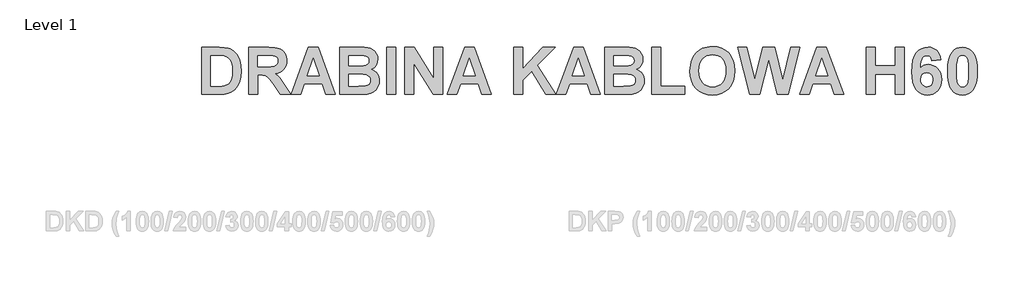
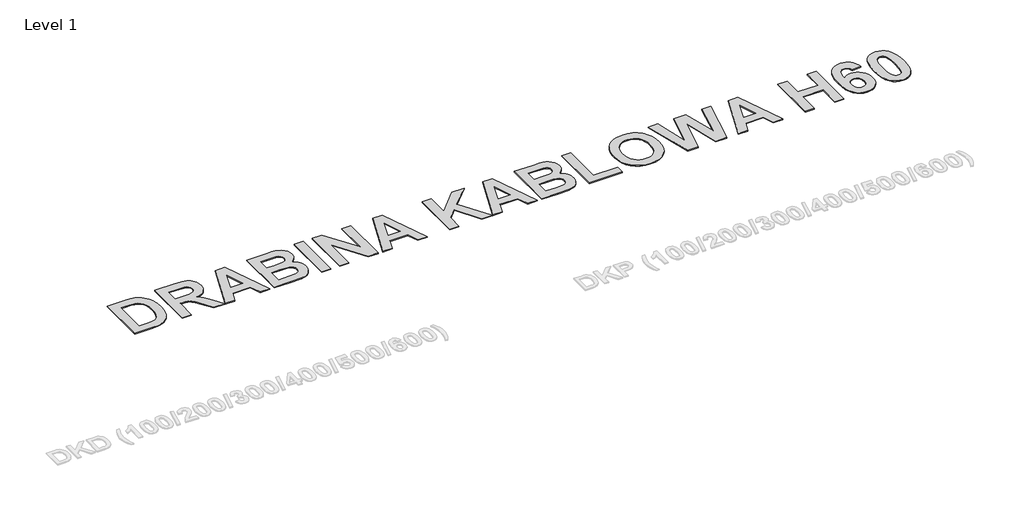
# One storey, part 41 of 42: 1 proxy.
"""IFC4 building model written with IfcOpenShell, lengths in millimetres."""

from ifc_helpers import new_model, si_unit, origin, origin_with_axes, place, context, project, spatial, polyline, outline, extrude, element, save

model = new_model("IFC4")

# Units and contexts
model_context = context("Model", 3, world=origin())
ifc_project = project(units=[si_unit("LENGTHUNIT", "METRE", prefix="MILLI")], contexts=[model_context])

# Site, building, storey
site = spatial("IfcSite", under=ifc_project)
building = spatial("IfcBuilding", under=site)
storey = spatial("IfcBuildingStorey", under=building, Name="Level 1", Elevation=0.0)

# Proxy
placement = place(None, origin())
element("IfcBuildingElementProxy", 1, Name="600mm Arial", ObjectType="600mm Arial", at=placement, inside=storey, context=model_context, shape_type="SweptSolid", body=[
    extrude(outline(polyline([(33126.7521017, 23578.3068806), (33353.4258047, 23578.3068806), (33420.9876251, 23575.3842625), (33470.3305276, 23566.6164083), (33496.3873758, 23557.1131551), (33520.5084639, 23544.5449484), (33542.693792, 23528.9117885), (33562.9433601, 23510.2136751), (33581.0721322, 23488.8444027), (33596.8950726, 23465.1977656), (33621.623458, 23411.0723971), (33630.4245238, 23380.0195801), (33636.7109993, 23345.5412269), (33641.7401798, 23266.3079123), (33637.033626, 23196.0132542), (33622.9139647, 23136.0426496), (33610.1417441, 23104.2354555), (33594.9023785, 23075.6165721), (33577.1958677, 23050.1859992), (33557.0222118, 23027.943737), (33519.142045, 23000.0839751), (33469.8750547, 22979.0563074), (33421.9365271, 22969.3775073), (33360.1060746, 22966.1512406), (33126.7521017, 22966.1512406), (33126.7521017, 23578.3068806)]), holes=[polyline([(33243.353176, 23471.4225625), (33243.353176, 23073.0355587), (33342.6462783, 23073.0355587), (33390.622762, 23074.4778897), (33423.1131655, 23078.8048827), (33452.699929, 23088.6924412), (33476.783061, 23103.7799826), (33496.1596393, 23127.1419491), (33511.6267414, 23161.8527833), (33521.7610145, 23209.6015305), (33525.1391055, 23272.0772363), (33521.7610145, 23333.6799523), (33511.6267414, 23379.1133787), (33495.4384738, 23412.3629038), (33473.898399, 23437.4139158), (33446.3992199, 23454.9496243), (33412.3336391, 23465.6532385), (33371.0753814, 23469.9802315), (33303.1719563, 23471.4225625), (33243.353176, 23471.4225625)])]), origin_with_axes(), (0.0, 0.0, 1.0), 10.0),
    extrude(outline(polyline([(33738.9077417, 22966.1512406), (33738.9077417, 23578.3068806), (33996.4017807, 23578.3068806), (34080.284715, 23574.169668), (34112.2627115, 23568.9981522), (34137.5983941, 23561.7580302), (34158.5121936, 23551.8704717), (34177.2245405, 23538.7566464), (34193.7354348, 23522.4165545), (34208.0448765, 23502.8501958), (34219.6025025, 23480.9020932), (34227.8579497, 23457.4167694), (34232.811218, 23432.3942244), (34234.4623074, 23405.8344582), (34232.0758189, 23372.7272684), (34224.9163535, 23342.6375869), (34212.9839113, 23315.5654136), (34196.278492, 23291.5107487), (34174.819074, 23271.0524222), (34148.624635, 23254.7692643), (34117.6951753, 23242.6612752), (34082.0306947, 23234.7284547), (34115.8495609, 23210.360652), (34143.2158938, 23183.7154847), (34171.5311286, 23145.1141525), (34208.1967008, 23084.8778553), (34283.0460883, 22966.1512406), (34146.8596774, 22966.1512406), (34058.1942771, 23105.9814352), (34015.3608421, 23159.6703087), (33988.5828285, 23188.9534236), (33969.2631843, 23203.3577555), (33948.8048578, 23212.4102803), (33921.6472834, 23217.1927462), (33882.2298955, 23218.7869016), (33855.508816, 23218.7869016), (33855.508816, 22966.1512406), (33738.9077417, 22966.1512406)]), holes=[polyline([(33855.508816, 23325.6712196), (33951.6136077, 23325.6712196), (34027.4688313, 23327.4361773), (34068.2905941, 23332.7310503), (34089.0525692, 23342.3339383), (34104.7284298, 23357.0229408), (34114.5780323, 23376.3995191), (34117.8612331, 23400.0651342), (34113.5342401, 23426.2738067), (34100.5532611, 23446.9029355), (34079.6774178, 23461.4590918), (34051.6658316, 23469.4488464), (33956.9274587, 23471.4225625), (33855.508816, 23471.4225625), (33855.508816, 23325.6712196)])]), origin_with_axes(), (0.0, 0.0, 1.0), 10.0),
    extrude(outline(polyline([(34866.0514597, 22966.1512406), (34743.5292372, 22966.1512406), (34695.5527535, 23102.1858273), (34464.324321, 23102.1858273), (34416.9551346, 22966.1512406), (34292.7628445, 22966.1512406), (34516.2482369, 23578.3068806), (34640.440527, 23578.3068806), (34866.0514597, 22966.1512406)]), holes=[polyline([(34658.2039719, 23209.0701454), (34579.4071521, 23432.5555377), (34501.6731026, 23209.0701454), (34658.2039719, 23209.0701454)])]), origin_with_axes(), (0.0, 0.0, 1.0), 10.0),
    extrude(outline(polyline([(34924.3519969, 23578.3068806), (35175.621239, 23578.3068806), (35240.6969362, 23576.7886374), (35286.8325501, 23572.233908), (35321.5623622, 23562.8397784), (35352.4206543, 23546.8033351), (35378.9329754, 23524.2574243), (35400.6248745, 23495.3348922), (35415.0861406, 23461.2693114), (35419.9065626, 23423.2942545), (35414.1562166, 23381.9221285), (35396.9051788, 23344.0419618), (35369.7855604, 23312.4245481), (35334.429473, 23289.8406812), (35358.2469125, 23280.2947274), (35379.1417339, 23267.9020676), (35397.1139372, 23252.6627019), (35412.1635225, 23234.5766304), (35424.0532642, 23214.203705), (35432.5459368, 23192.1037781), (35437.6415404, 23168.2768496), (35439.340075, 23142.7229195), (35434.4627188, 23101.7113763), (35419.8306504, 23061.8764715), (35396.7533545, 23026.5773182), (35366.5403157, 22999.1730292), (35328.8309513, 22980.2139678), (35283.2646786, 22970.2504971), (35133.5659036, 22966.1512406), (34924.3519969, 22966.1512406), (34924.3519969, 23578.3068806)]), holes=[polyline([(35040.9530712, 23228.5036577), (35040.9530712, 23073.0355587), (35164.2344153, 23073.0355587), (35255.6326532, 23076.6793423), (35282.6194253, 23084.8209212), (35304.0646099, 23099.8325504), (35318.070403, 23121.4105812), (35322.7390007, 23149.2513651), (35319.1331732, 23173.3914312), (35308.3156907, 23193.5840652), (35290.7040701, 23209.3358379), (35266.7158283, 23220.1533204), (35223.5977227, 23226.4160734), (35148.5965108, 23228.5036577), (35040.9530712, 23228.5036577)]), polyline([(35040.9530712, 23471.4225625), (35040.9530712, 23335.3879758), (35129.92212, 23335.3879758), (35228.6079251, 23337.3616919), (35259.6749756, 23344.4594787), (35283.3405908, 23358.4652718), (35298.3142639, 23378.6958618), (35303.3054883, 23404.4680394), (35298.9974733, 23429.1205126), (35286.0734285, 23448.7248273), (35264.685178, 23462.4459498), (35234.9845463, 23469.4488464), (35118.9907693, 23471.4225625), (35040.9530712, 23471.4225625)])]), origin_with_axes(), (0.0, 0.0, 1.0), 10.0),
    extrude(outline(polyline([(35536.5076369, 22966.1512406), (35536.5076369, 23578.3068806), (35653.1087111, 23578.3068806), (35653.1087111, 22966.1512406), (35536.5076369, 22966.1512406)])), origin_with_axes(), (0.0, 0.0, 1.0), 10.0),
    extrude(outline(polyline([(35769.7097854, 22966.1512406), (35769.7097854, 23578.3068806), (35891.9283594, 23578.3068806), (36148.6632768, 23166.2556884), (36148.6632768, 23578.3068806), (36265.2643511, 23578.3068806), (36265.2643511, 22966.1512406), (36139.2501693, 22966.1512406), (35886.3108597, 23372.1294602), (35886.3108597, 22966.1512406), (35769.7097854, 22966.1512406)])), origin_with_axes(), (0.0, 0.0, 1.0), 10.0),
    extrude(outline(polyline([(36896.8535035, 22966.1512406), (36774.3312809, 22966.1512406), (36726.3547972, 23102.1858273), (36495.1263647, 23102.1858273), (36447.7571783, 22966.1512406), (36323.5648882, 22966.1512406), (36547.0502806, 23578.3068806), (36671.2425707, 23578.3068806), (36896.8535035, 22966.1512406)]), holes=[polyline([(36689.0060156, 23209.0701454), (36610.2091959, 23432.5555377), (36532.4751463, 23209.0701454), (36689.0060156, 23209.0701454)])]), origin_with_axes(), (0.0, 0.0, 1.0), 10.0),
    extrude(outline(polyline([(37188.3561892, 22966.1512406), (37188.3561892, 23578.3068806), (37304.9572634, 23578.3068806), (37304.9572634, 23299.2537888), (37567.6133292, 23578.3068806), (37727.6361577, 23578.3068806), (37495.9522523, 23344.4974348), (37737.3529139, 22966.1512406), (37601.0146786, 22966.1512406), (37420.1919189, 23267.8261555), (37304.9572634, 23151.3769055), (37304.9572634, 22966.1512406), (37188.3561892, 22966.1512406)])), origin_with_axes(), (0.0, 0.0, 1.0), 10.0),
    extrude(outline(polyline([(38315.4999072, 22966.1512406), (38192.9776846, 22966.1512406), (38145.0012009, 23102.1858273), (37913.7727685, 23102.1858273), (37866.4035821, 22966.1512406), (37742.211292, 22966.1512406), (37965.6966844, 23578.3068806), (38089.8889744, 23578.3068806), (38315.4999072, 22966.1512406)]), holes=[polyline([(38107.6524193, 23209.0701454), (38028.8555996, 23432.5555377), (37951.1215501, 23209.0701454), (38107.6524193, 23209.0701454)])]), origin_with_axes(), (0.0, 0.0, 1.0), 10.0),
    extrude(outline(polyline([(38373.8004444, 23578.3068806), (38625.0696865, 23578.3068806), (38690.1453837, 23576.7886374), (38736.2809975, 23572.233908), (38771.0108097, 23562.8397784), (38801.8691018, 23546.8033351), (38828.3814229, 23524.2574243), (38850.073322, 23495.3348922), (38864.534588, 23461.2693114), (38869.35501, 23423.2942545), (38863.6046641, 23381.9221285), (38846.3536263, 23344.0419618), (38819.2340079, 23312.4245481), (38783.8779204, 23289.8406812), (38807.6953599, 23280.2947274), (38828.5901813, 23267.9020676), (38846.5623847, 23252.6627019), (38861.61197, 23234.5766304), (38873.5017117, 23214.203705), (38881.9943843, 23192.1037781), (38887.0899879, 23168.2768496), (38888.7885224, 23142.7229195), (38883.9111663, 23101.7113763), (38869.2790979, 23061.8764715), (38846.2018019, 23026.5773182), (38815.9887632, 22999.1730292), (38778.2793988, 22980.2139678), (38732.7131261, 22970.2504971), (38583.0143511, 22966.1512406), (38373.8004444, 22966.1512406), (38373.8004444, 23578.3068806)]), holes=[polyline([(38490.4015186, 23471.4225625), (38490.4015186, 23335.3879758), (38579.3705675, 23335.3879758), (38678.0563726, 23337.3616919), (38709.1234231, 23344.4594787), (38732.7890383, 23358.4652718), (38747.7627114, 23378.6958618), (38752.7539358, 23404.4680394), (38748.4459208, 23429.1205126), (38735.521876, 23448.7248273), (38714.1336255, 23462.4459498), (38684.4329938, 23469.4488464), (38568.4392168, 23471.4225625), (38490.4015186, 23471.4225625)]), polyline([(38490.4015186, 23228.5036577), (38490.4015186, 23073.0355587), (38613.6828628, 23073.0355587), (38705.0811007, 23076.6793423), (38732.0678728, 23084.8209212), (38753.5130573, 23099.8325504), (38767.5188504, 23121.4105812), (38772.1874481, 23149.2513651), (38768.5816207, 23173.3914312), (38757.7641382, 23193.5840652), (38740.1525176, 23209.3358379), (38716.1642757, 23220.1533204), (38673.0461701, 23226.4160734), (38598.0449583, 23228.5036577), (38490.4015186, 23228.5036577)])]), origin_with_axes(), (0.0, 0.0, 1.0), 10.0),
    extrude(outline(polyline([(38985.9560843, 22966.1512406), (38985.9560843, 23578.3068806), (39102.5571586, 23578.3068806), (39102.5571586, 23073.0355587), (39413.4933567, 23073.0355587), (39413.4933567, 22966.1512406), (38985.9560843, 22966.1512406)])), origin_with_axes(), (0.0, 0.0, 1.0), 10.0),
    extrude(outline(polyline([(39481.51065, 23268.4334527), (39483.2281626, 23313.2406038), (39488.3807003, 23354.2901031), (39496.9682631, 23391.5819506), (39508.9908511, 23425.1161463), (39533.2258075, 23469.3539562), (39564.9381114, 23508.8472563), (39602.0781345, 23541.1668574), (39642.5962487, 23563.8835706), (39671.7654953, 23574.4448496), (39703.0982384, 23581.9886202), (39736.594478, 23586.5148826), (39772.2542141, 23588.0236368), (39835.3561953, 23582.7904424), (39891.8158626, 23567.0908593), (39941.6332161, 23540.9248874), (39984.8082558, 23504.2925268), (40003.4897634, 23482.3384936), (40019.6804033, 23458.3419488), (40044.58908, 23404.2213249), (40059.5342861, 23341.9306549), (40064.5160214, 23271.469939), (40059.5722422, 23201.4884186), (40044.7409043, 23139.572565), (40020.022008, 23085.7223781), (40003.9547253, 23061.8219097), (39985.4155531, 23039.9378579), (39942.5251839, 23003.405132), (39892.9545449, 22977.3103278), (39836.7036361, 22961.6534453), (39773.7724573, 22956.4344844), (39710.1770472, 22961.6297227), (39653.4516873, 22977.2154376), (39603.5963777, 23003.1916291), (39560.6111184, 23039.5582971), (39526.0046635, 23085.0344241), (39501.2857671, 23138.3389924), (39486.4544293, 23199.4720019), (39481.51065, 23268.4334527)]), holes=[polyline([(39598.1117243, 23272.6845335), (39601.2098892, 23224.2620659), (39610.5043841, 23182.0833733), (39625.9952087, 23146.1484556), (39647.6823633, 23116.4573129), (39674.1424948, 23093.2092146), (39703.9522502, 23076.6034301), (39737.1116296, 23066.6399594), (39773.620633, 23063.3188025), (39810.0916803, 23066.6162369), (39843.1371914, 23076.5085399), (39872.7571665, 23092.9957117), (39898.9516054, 23116.0777521), (39920.3730674, 23145.7546613), (39935.6741117, 23182.0264392), (39944.8547383, 23224.8930857), (39947.9149471, 23274.354601), (39944.935395, 23323.1281624), (39935.9967384, 23365.297366), (39921.0989774, 23400.8622119), (39900.2421121, 23429.8227001), (39874.4509565, 23452.2737207), (39844.7503248, 23468.310164), (39811.1402169, 23477.93203), (39773.620633, 23481.1393187), (39736.0630929, 23477.8940739), (39702.3391169, 23468.1583397), (39672.4487048, 23451.932116), (39646.3918566, 23429.2154028), (39625.2692987, 23399.960755), (39610.1817574, 23364.1207275), (39601.1292326, 23321.6953204), (39598.1117243, 23272.6845335)])]), origin_with_axes(), (0.0, 0.0, 1.0), 10.0),
    extrude(outline(polyline([(40257.4847264, 22966.1512406), (40103.3830462, 23578.3068806), (40223.0206068, 23578.3068806), (40322.0100605, 23157.7535267), (40428.4389056, 23578.3068806), (40585.2734235, 23578.3068806), (40691.2467957, 23150.7696082), (40790.2362494, 23578.3068806), (40909.87381, 23578.3068806), (40758.0494945, 22966.1512406), (40620.0411917, 22966.1512406), (40506.6284281, 23423.7497274), (40390.9382997, 22966.1512406), (40257.4847264, 22966.1512406)])), origin_with_axes(), (0.0, 0.0, 1.0), 10.0),
    extrude(outline(polyline([(41483.1624252, 22966.1512406), (41360.6402026, 22966.1512406), (41312.6637189, 23102.1858273), (41081.4352864, 23102.1858273), (41034.0661, 22966.1512406), (40909.87381, 22966.1512406), (41133.3592023, 23578.3068806), (41257.5514924, 23578.3068806), (41483.1624252, 22966.1512406)]), holes=[polyline([(41275.3149373, 23209.0701454), (41196.5181176, 23432.5555377), (41118.784068, 23209.0701454), (41275.3149373, 23209.0701454)])]), origin_with_axes(), (0.0, 0.0, 1.0), 10.0),
    extrude(outline(polyline([(41774.6651109, 22966.1512406), (41774.6651109, 23578.3068806), (41891.2661852, 23578.3068806), (41891.2661852, 23335.3879758), (42153.6186023, 23335.3879758), (42153.6186023, 23578.3068806), (42270.2196766, 23578.3068806), (42270.2196766, 22966.1512406), (42153.6186023, 22966.1512406), (42153.6186023, 23228.5036577), (41891.2661852, 23228.5036577), (41891.2661852, 22966.1512406), (41774.6651109, 22966.1512406)])), origin_with_axes(), (0.0, 0.0, 1.0), 10.0),
    extrude(outline(polyline([(42746.3407299, 23415.854863), (42629.7396556, 23403.4052692), (42622.6039128, 23433.637286), (42609.0915487, 23454.7978), (42589.8857728, 23467.2663719), (42565.6697945, 23471.4225625), (42548.6654711, 23469.4061458), (42533.0275666, 23463.3568957), (42518.756081, 23453.2748123), (42505.8510142, 23439.1598955), (42494.7583501, 23418.5924452), (42485.9240728, 23389.1527616), (42479.3481821, 23350.8408444), (42475.0306781, 23303.6566939), (42497.7473913, 23326.0412914), (42523.083074, 23342.0302896), (42551.0377261, 23351.6236886), (42581.6113476, 23354.8214882), (42616.2984592, 23351.4054411), (42648.3950684, 23341.1572998), (42677.9011752, 23324.0770643), (42704.8167796, 23300.1647346), (42727.2345887, 23270.8531527), (42743.2473095, 23237.5751606), (42752.8549419, 23200.3307582), (42756.0574861, 23159.1199456), (42752.7837743, 23115.5321335), (42742.9626389, 23076.4705838), (42726.5940799, 23041.9352966), (42703.6780972, 23011.9262717), (42675.6190659, 22987.6486148), (42643.8213609, 22970.3074312), (42608.284982, 22959.9027211), (42569.0099294, 22956.4344844), (42526.935616, 22960.9133017), (42488.7707787, 22974.3497536), (42454.5154175, 22996.7438402), (42424.1695325, 23028.0955613), (42399.3272788, 23069.6479787), (42381.582812, 23122.6441538), (42370.9361318, 23187.0840867), (42367.3872385, 23262.9677774), (42371.0927007, 23340.8536512), (42382.2090873, 23407.0490527), (42400.7363983, 23461.553982), (42426.6746337, 23504.368439), (42458.5340174, 23536.7165072), (42494.8247733, 23559.8222702), (42535.5469014, 23573.685728), (42580.7004017, 23578.3068806), (42612.5170848, 23575.7068892), (42641.468084, 23567.906915), (42667.5533992, 23554.906958), (42690.7730304, 23536.7070181), (42710.5861036, 23513.55381), (42726.4517446, 23485.6940482), (42738.3699533, 23453.1277325), (42746.3407299, 23415.854863)]), holes=[polyline([(42483.9883128, 23161.7009589), (42485.56349, 23139.4444632), (42490.2890218, 23119.8923381), (42498.1649082, 23103.0445836), (42509.1911491, 23088.9011997), (42536.1779212, 23069.7144018), (42551.009259, 23064.9177023), (42566.7325647, 23063.3188025), (42595.275536, 23068.5567414), (42618.6564806, 23084.270558), (42627.7564505, 23096.4259923), (42634.256429, 23111.9405395), (42639.4564118, 23153.046973), (42638.0567814, 23175.9961671), (42633.8578902, 23195.6526715), (42626.8597381, 23212.016486), (42617.0623253, 23225.0876106), (42591.8784669, 23242.2247803), (42561.115065, 23247.9371701), (42531.262609, 23242.4714948), (42506.3823993, 23226.0744687), (42496.5849864, 23213.8526113), (42489.5868344, 23199.0497405), (42483.9883128, 23161.7009589)])]), origin_with_axes(), (0.0, 0.0, 1.0), 10.0),
    extrude(outline(polyline([(43028.1266594, 23578.3068806), (43069.2425818, 23574.3594484), (43105.5950164, 23562.5171518), (43137.183963, 23542.7799908), (43164.0094217, 23515.1479654), (43189.5823299, 23471.64081), (43207.8486928, 23415.816907), (43218.8085106, 23347.6762564), (43222.4617832, 23267.2188582), (43218.7895326, 23186.8373722), (43207.7727807, 23118.6208094), (43189.4115275, 23062.56917), (43163.7057731, 23018.6824538), (43137.0131606, 22991.4489672), (43105.5191042, 22971.9964768), (43069.2236038, 22960.3249825), (43028.1266594, 22956.4344844), (42986.5884756, 22960.7045433), (42949.2729055, 22973.5147199), (42916.1799493, 22994.8650143), (42887.3096068, 23024.7554264), (42863.8954506, 23065.6056563), (42847.1710534, 23119.8354039), (42837.136415, 23187.4446694), (42833.7915356, 23268.4334527), (42837.4637862, 23348.4163999), (42848.4805381, 23416.3482921), (42866.8417913, 23472.2291292), (42892.5475457, 23516.0589112), (42919.2401581, 23543.2923978), (42950.7342146, 23562.7448883), (42987.029715, 23574.4163825), (43028.1266594, 23578.3068806)]), holes=[polyline([(43028.1266594, 23471.4225625), (43007.5544646, 23468.2152738), (42989.2596346, 23458.5934078), (42974.0772031, 23440.6591606), (42962.8422037, 23412.5147281), (42953.5050083, 23354.5557957), (42950.3926099, 23267.2188582), (42953.1634036, 23181.0395811), (42961.4757849, 23126.8572785), (42974.020269, 23095.0500844), (42989.4873711, 23075.9961329), (43007.6113988, 23066.4881351), (43028.1266594, 23063.3188025), (43048.6988541, 23066.5260912), (43066.9936842, 23076.1479572), (43082.1761157, 23094.0822044), (43093.411115, 23122.2266369), (43102.7483104, 23179.8819207), (43105.8607089, 23267.2188582), (43103.0899152, 23353.3032451), (43094.7775339, 23407.5045257), (43082.2330498, 23439.40661), (43066.7659477, 23458.5934078), (43048.64192, 23468.2152738), (43028.1266594, 23471.4225625)])]), origin_with_axes(), (0.0, 0.0, 1.0), 10.0),
])

save(model, "model.ifc")
